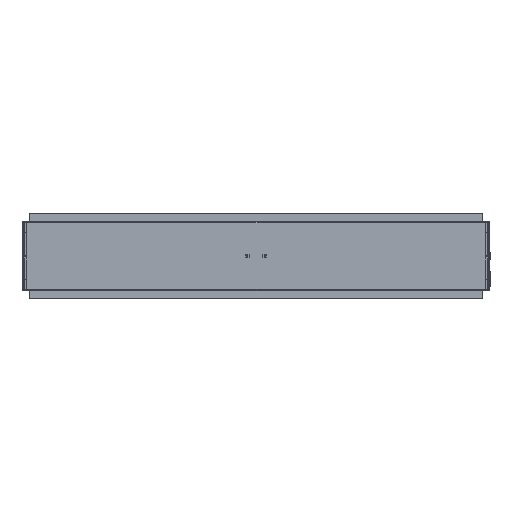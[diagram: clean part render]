
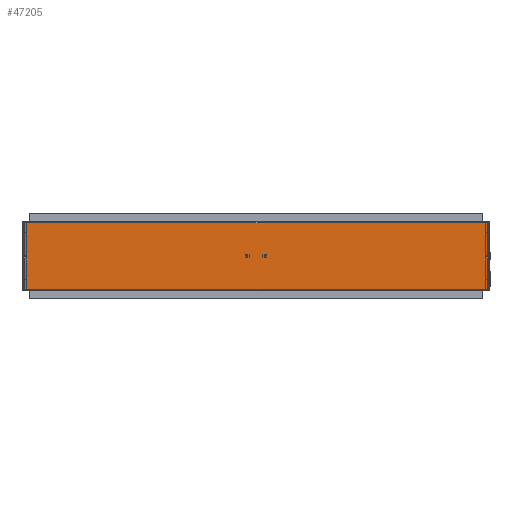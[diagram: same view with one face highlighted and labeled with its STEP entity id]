
A CAD part, top view. The second image highlights one B-rep face of the part: STEP entity #47205.
In plain terms, the highlighted planar face has unit normal (0, 0, 1).
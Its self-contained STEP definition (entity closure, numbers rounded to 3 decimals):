
#479 = EDGE_CURVE ( 'NONE', #105253, #34663, #134187, .T. ) ;
#8238 = CARTESIAN_POINT ( 'NONE',  ( -1376.5, -197.5, 0. ) ) ;
#10104 = CARTESIAN_POINT ( 'NONE',  ( 1376.5, 197.5, 0. ) ) ;
#27692 = VERTEX_POINT ( 'NONE', #106406 ) ;
#30830 = EDGE_CURVE ( 'NONE', #63740, #105253, #45002, .T. ) ;
#32830 = LINE ( 'NONE', #8238, #78774 ) ;
#33465 = DIRECTION ( 'NONE',  ( 0., 1., 0. ) ) ;
#34598 = DIRECTION ( 'NONE',  ( 1., 0., 0. ) ) ;
#34663 = VERTEX_POINT ( 'NONE', #40706 ) ;
#38913 = CARTESIAN_POINT ( 'NONE',  ( 1376.5, 197.5, 0. ) ) ;
#39296 = CARTESIAN_POINT ( 'NONE',  ( 1376.5, -197.5, 0. ) ) ;
#40001 = ORIENTED_EDGE ( 'NONE', *, *, #30830, .T. ) ;
#40706 = CARTESIAN_POINT ( 'NONE',  ( -1376.5, 197.5, 0. ) ) ;
#42967 = LINE ( 'NONE', #69051, #126186 ) ;
#45002 = LINE ( 'NONE', #91858, #63956 ) ;
#47205 = ADVANCED_FACE ( 'NONE', ( #80710 ), #93745, .T. ) ;
#54179 = ORIENTED_EDGE ( 'NONE', *, *, #58775, .T. ) ;
#55121 = DIRECTION ( 'NONE',  ( 1., 0., 0. ) ) ;
#58775 = EDGE_CURVE ( 'NONE', #34663, #27692, #42967, .T. ) ;
#61238 = ORIENTED_EDGE ( 'NONE', *, *, #139733, .T. ) ;
#63740 = VERTEX_POINT ( 'NONE', #39296 ) ;
#63956 = VECTOR ( 'NONE', #33465, 1000. ) ;
#66773 = DIRECTION ( 'NONE',  ( 0., -1., 0. ) ) ;
#69051 = CARTESIAN_POINT ( 'NONE',  ( -1376.5, 199.5, 0. ) ) ;
#78774 = VECTOR ( 'NONE', #55121, 1000. ) ;
#79960 = CARTESIAN_POINT ( 'NONE',  ( 0., 0., 0. ) ) ;
#80710 = FACE_OUTER_BOUND ( 'NONE', #103398, .T. ) ;
#91858 = CARTESIAN_POINT ( 'NONE',  ( 1376.5, 199.5, 0. ) ) ;
#93745 = PLANE ( 'NONE',  #97887 ) ;
#96543 = DIRECTION ( 'NONE',  ( -1., 0., 0. ) ) ;
#97887 = AXIS2_PLACEMENT_3D ( 'NONE', #79960, #127587, #34598 ) ;
#100741 = ORIENTED_EDGE ( 'NONE', *, *, #479, .T. ) ;
#103398 = EDGE_LOOP ( 'NONE', ( #54179, #61238, #40001, #100741 ) ) ;
#105253 = VERTEX_POINT ( 'NONE', #10104 ) ;
#106406 = CARTESIAN_POINT ( 'NONE',  ( -1376.5, -197.5, 0. ) ) ;
#113431 = VECTOR ( 'NONE', #96543, 1000. ) ;
#126186 = VECTOR ( 'NONE', #66773, 1000. ) ;
#127587 = DIRECTION ( 'NONE',  ( 0., 0., 1. ) ) ;
#134187 = LINE ( 'NONE', #38913, #113431 ) ;
#139733 = EDGE_CURVE ( 'NONE', #27692, #63740, #32830, .T. ) ;
